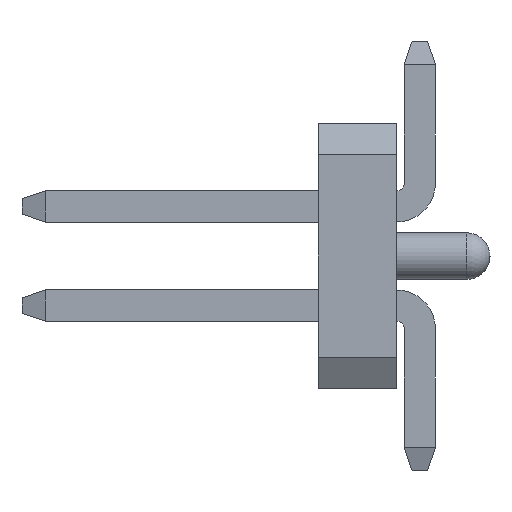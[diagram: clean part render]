
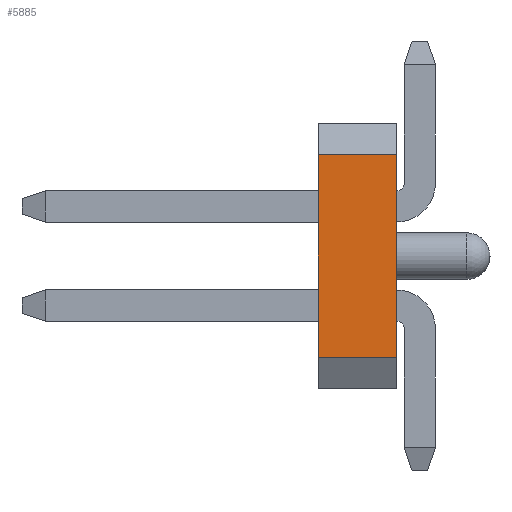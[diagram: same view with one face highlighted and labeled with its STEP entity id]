
A CAD part, left-side view. The second image highlights one B-rep face of the part: STEP entity #5885.
In plain terms, the highlighted planar face has unit normal (-1, 0, 0).
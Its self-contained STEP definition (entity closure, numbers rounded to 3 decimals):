
#5885=ADVANCED_FACE('',(#7453),#6635,.F.);
#6635=PLANE('',#20138);
#7453=FACE_OUTER_BOUND('',#8347,.T.);
#8347=EDGE_LOOP('',(#12239,#12240,#12241,#12242));
#12239=ORIENTED_EDGE('',*,*,#13630,.T.);
#12240=ORIENTED_EDGE('',*,*,#15498,.F.);
#12241=ORIENTED_EDGE('',*,*,#13896,.F.);
#12242=ORIENTED_EDGE('',*,*,#15494,.T.);
#12401=VERTEX_POINT('',#24088);
#12402=VERTEX_POINT('',#24090);
#12664=VERTEX_POINT('',#24618);
#12665=VERTEX_POINT('',#24620);
#13630=EDGE_CURVE('',#12402,#12401,#15606,.T.);
#13896=EDGE_CURVE('',#12664,#12665,#15872,.T.);
#15494=EDGE_CURVE('',#12664,#12402,#17330,.T.);
#15498=EDGE_CURVE('',#12665,#12401,#17334,.T.);
#15606=LINE('',#24089,#17442);
#15872=LINE('',#24619,#17708);
#17330=LINE('',#27886,#19166);
#17334=LINE('',#27892,#19170);
#17442=VECTOR('',#20247,1.);
#17708=VECTOR('',#20515,1.);
#19166=VECTOR('',#23843,1.);
#19170=VECTOR('',#23851,1.);
#20138=AXIS2_PLACEMENT_3D('',#27895,#23856,#23857);
#20247=DIRECTION('',(0.,0.,-1.));
#20515=DIRECTION('',(0.,0.,-1.));
#23843=DIRECTION('',(0.,1.,0.));
#23851=DIRECTION('',(0.,1.,0.));
#23856=DIRECTION('',(1.,0.,0.));
#23857=DIRECTION('',(0.,-1.,0.));
#24088=CARTESIAN_POINT('',(-23.141,0.698,-1.3));
#24089=CARTESIAN_POINT('',(-23.141,0.698,1.7));
#24090=CARTESIAN_POINT('',(-23.141,0.698,1.3));
#24618=CARTESIAN_POINT('',(-23.141,-0.302,1.3));
#24619=CARTESIAN_POINT('',(-23.141,-0.302,1.7));
#24620=CARTESIAN_POINT('',(-23.141,-0.302,-1.3));
#27886=CARTESIAN_POINT('',(-23.141,-0.302,1.3));
#27892=CARTESIAN_POINT('',(-23.141,-0.302,-1.3));
#27895=CARTESIAN_POINT('',(-23.141,0.698,1.7));
